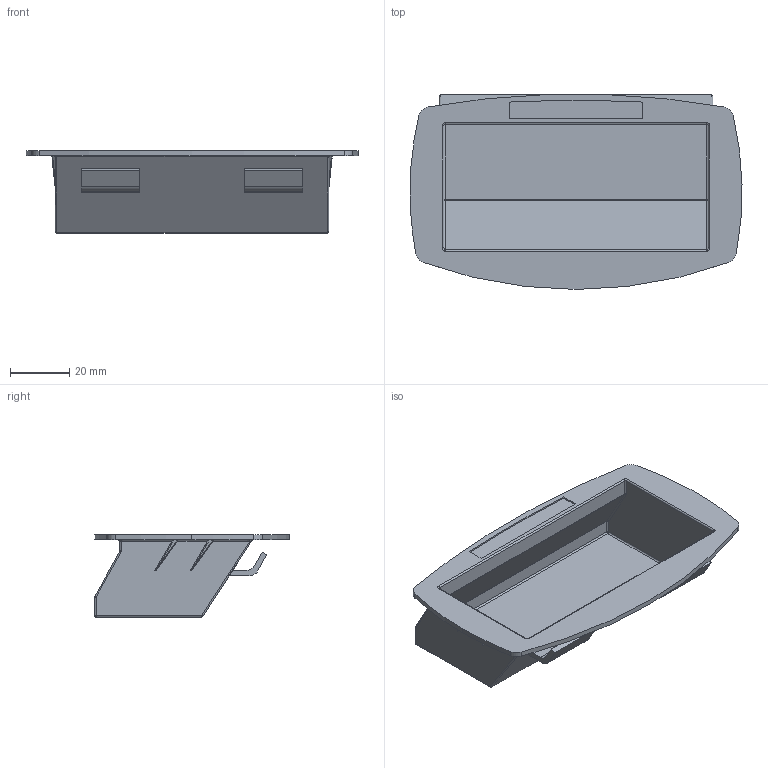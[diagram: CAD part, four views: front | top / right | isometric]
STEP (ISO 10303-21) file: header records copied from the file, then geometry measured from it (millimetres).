
FILE_DESCRIPTION (( 'STEP AP214' ), '1' );
FILE_NAME ('PL027.STEP', '2023-06-28T01:08:09', ( 'Windows 蚚誧' ), ( '' ), 'SwSTEP 2.0', 'SolidWorks 2019', '' );
FILE_SCHEMA (( 'AUTOMOTIVE_DESIGN' ));
Length unit declared in the file: millimetre
Products named in the file (1): PL027
Bounding box: 111.97 x 65.73 x 27.7 mm (x, y, z)
Volume: 21552.4 mm3; surface area: 28395.7 mm2
Topology: 1 solids, 1 shells, 138 faces, 341 edges, 202 vertices
Faces by surface type: cylinder 64, plane 50, sphere 12, torus 8, bspline 4
Entity records: 4099 total; most frequent: CARTESIAN_POINT 922, DIRECTION 667, ORIENTED_EDGE 666, EDGE_CURVE 333, AXIS2_PLACEMENT_3D 243, VERTEX_POINT 202, LINE 181, VECTOR 181
